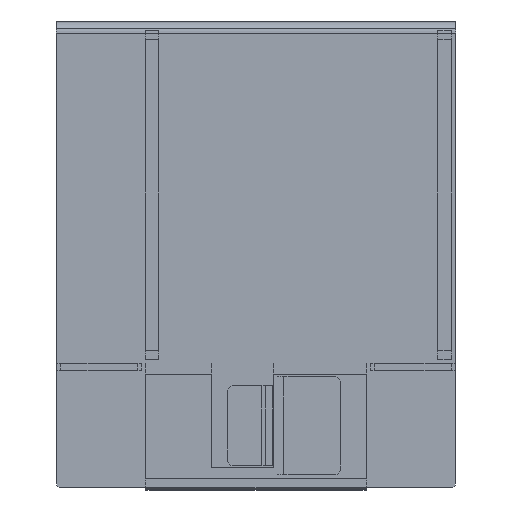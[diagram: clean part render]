
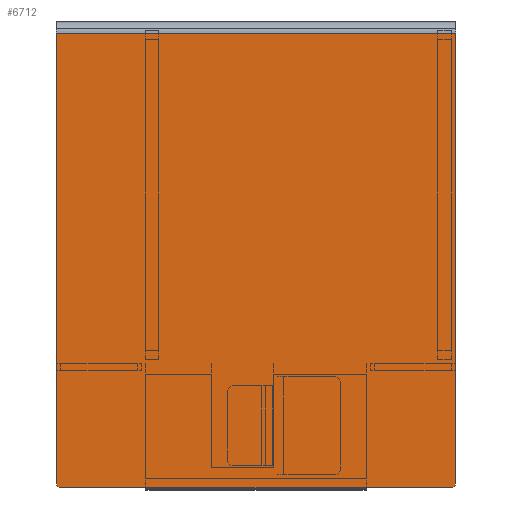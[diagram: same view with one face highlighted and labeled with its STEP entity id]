
A CAD part, left-side view. The second image highlights one B-rep face of the part: STEP entity #6712.
In plain terms, the highlighted planar face has unit normal (-1, 0, 0).
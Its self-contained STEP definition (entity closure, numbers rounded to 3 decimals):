
#131 = AXIS2_PLACEMENT_3D ( 'NONE', #3200, #1454, #7572 ) ;
#221 = CARTESIAN_POINT ( 'NONE',  ( 0., 90., -2.5 ) ) ;
#257 = DIRECTION ( 'NONE',  ( -1., 0., 0. ) ) ;
#407 = CARTESIAN_POINT ( 'NONE',  ( 0., 0., 0. ) ) ;
#569 = PLANE ( 'NONE',  #131 ) ;
#655 = EDGE_CURVE ( 'NONE', #7046, #1751, #6026, .T. ) ;
#788 = DIRECTION ( 'NONE',  ( 0., 0., -1. ) ) ;
#1034 = LINE ( 'NONE', #407, #5373 ) ;
#1296 = VERTEX_POINT ( 'NONE', #4071 ) ;
#1454 = DIRECTION ( 'NONE',  ( 1., 0., 0. ) ) ;
#1652 = ORIENTED_EDGE ( 'NONE', *, *, #655, .F. ) ;
#1751 = VERTEX_POINT ( 'NONE', #5431 ) ;
#1851 = EDGE_CURVE ( 'NONE', #4310, #1751, #1034, .T. ) ;
#1966 = CARTESIAN_POINT ( 'NONE',  ( 0., 1., -105. ) ) ;
#2156 = VECTOR ( 'NONE', #9242, 1000. ) ;
#2304 = AXIS2_PLACEMENT_3D ( 'NONE', #5474, #257, #6372 ) ;
#2723 = CARTESIAN_POINT ( 'NONE',  ( 0., 89., -105. ) ) ;
#3133 = CARTESIAN_POINT ( 'NONE',  ( 0., 0., -105. ) ) ;
#3200 = CARTESIAN_POINT ( 'NONE',  ( 0., 0., 0. ) ) ;
#3377 = ORIENTED_EDGE ( 'NONE', *, *, #1851, .T. ) ;
#3466 = EDGE_CURVE ( 'NONE', #7046, #1296, #6944, .T. ) ;
#4071 = CARTESIAN_POINT ( 'NONE',  ( 0., 90., -104. ) ) ;
#4310 = VERTEX_POINT ( 'NONE', #10679 ) ;
#4313 = CIRCLE ( 'NONE', #2304, 1. ) ;
#4585 = DIRECTION ( 'NONE',  ( -1., 0., 0. ) ) ;
#4637 = VECTOR ( 'NONE', #788, 1000. ) ;
#5373 = VECTOR ( 'NONE', #8308, 1000. ) ;
#5431 = CARTESIAN_POINT ( 'NONE',  ( 0., 0., -2.5 ) ) ;
#5474 = CARTESIAN_POINT ( 'NONE',  ( 0., 89., -104. ) ) ;
#5639 = CARTESIAN_POINT ( 'NONE',  ( 0., 0., -2.5 ) ) ;
#5711 = DIRECTION ( 'NONE',  ( 0., -1., 0. ) ) ;
#6026 = LINE ( 'NONE', #5639, #10164 ) ;
#6061 = EDGE_LOOP ( 'NONE', ( #9193, #8027, #9390, #9746, #3377, #1652 ) ) ;
#6372 = DIRECTION ( 'NONE',  ( 0., 0., -1. ) ) ;
#6712 = ADVANCED_FACE ( 'NONE', ( #7084 ), #569, .F. ) ;
#6944 = LINE ( 'NONE', #10362, #4637 ) ;
#7046 = VERTEX_POINT ( 'NONE', #221 ) ;
#7069 = CIRCLE ( 'NONE', #7098, 1. ) ;
#7084 = FACE_OUTER_BOUND ( 'NONE', #6061, .T. ) ;
#7098 = AXIS2_PLACEMENT_3D ( 'NONE', #9851, #4585, #10683 ) ;
#7572 = DIRECTION ( 'NONE',  ( 0., 0., -1. ) ) ;
#8027 = ORIENTED_EDGE ( 'NONE', *, *, #11184, .T. ) ;
#8308 = DIRECTION ( 'NONE',  ( 0., 0., 1. ) ) ;
#9148 = LINE ( 'NONE', #3133, #2156 ) ;
#9193 = ORIENTED_EDGE ( 'NONE', *, *, #3466, .T. ) ;
#9242 = DIRECTION ( 'NONE',  ( 0., -1., 0. ) ) ;
#9390 = ORIENTED_EDGE ( 'NONE', *, *, #10743, .T. ) ;
#9746 = ORIENTED_EDGE ( 'NONE', *, *, #10312, .T. ) ;
#9851 = CARTESIAN_POINT ( 'NONE',  ( 0., 1., -104. ) ) ;
#10164 = VECTOR ( 'NONE', #5711, 1000. ) ;
#10300 = VERTEX_POINT ( 'NONE', #1966 ) ;
#10312 = EDGE_CURVE ( 'NONE', #10300, #4310, #7069, .T. ) ;
#10362 = CARTESIAN_POINT ( 'NONE',  ( 0., 90., 0. ) ) ;
#10679 = CARTESIAN_POINT ( 'NONE',  ( 0., 0., -104. ) ) ;
#10683 = DIRECTION ( 'NONE',  ( 0., 0., -1. ) ) ;
#10743 = EDGE_CURVE ( 'NONE', #11114, #10300, #9148, .T. ) ;
#11114 = VERTEX_POINT ( 'NONE', #2723 ) ;
#11184 = EDGE_CURVE ( 'NONE', #1296, #11114, #4313, .T. ) ;
